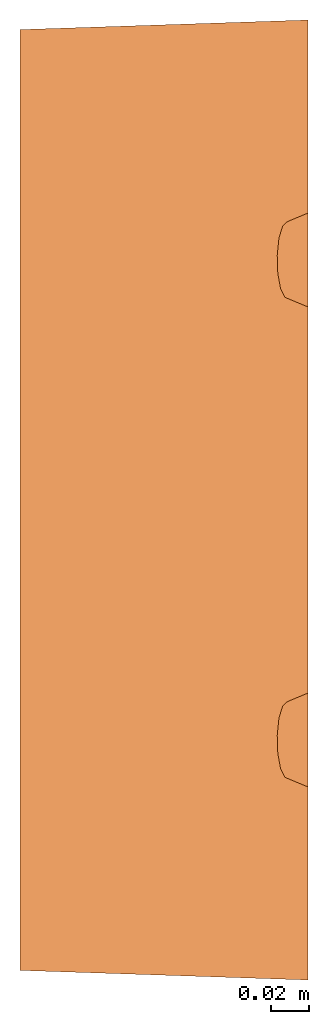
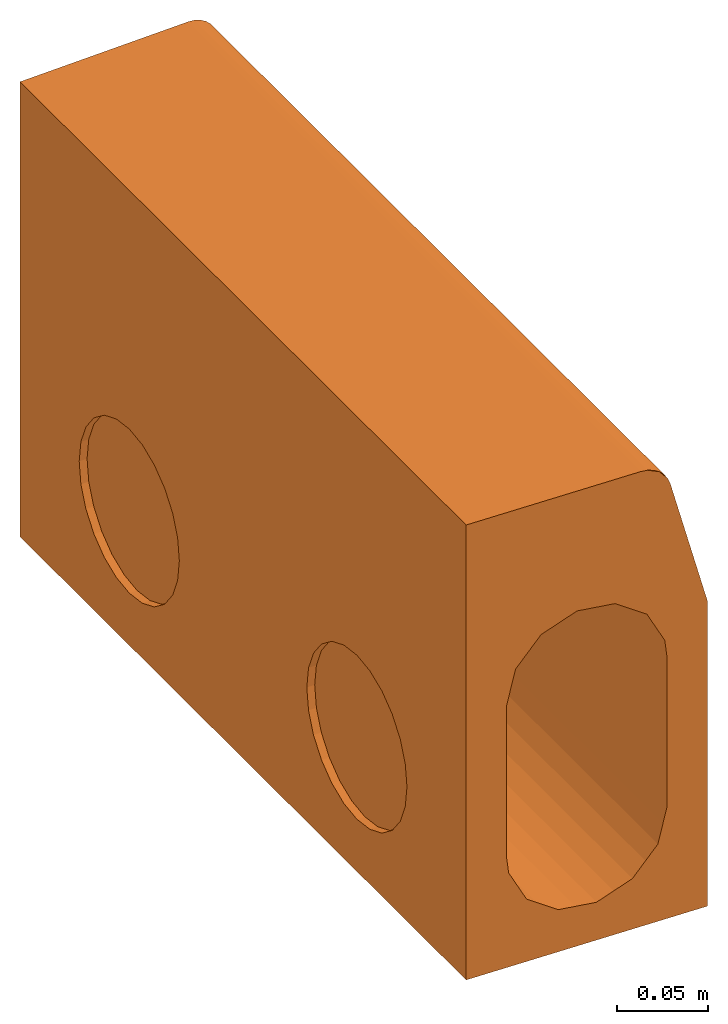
# One storey: 1 proxy.
"""IFC2X3 building model written with IfcOpenShell, lengths in millimetres."""

from ifc_helpers import new_model, entity, si_unit, converted_unit, direction, frame, origin, place, context, subcontext, project, spatial, face_set, surface_model, source, transform, mapped, material, element, save


model = new_model("IFC2X3")

# Units and contexts
model_context = context("Model", 3, precision=1e-06, world=origin(), true_north=direction((2.0, 6.12303176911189e-17, 1.0)))
context_of_model = context(None, 3, precision=1e-06, world=origin(), true_north=direction((2.0, 6.12303176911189e-17, 1.0)))
body_context = subcontext(model_context, "Body", "Model", "MODEL_VIEW")
ifc_project = project(units=[si_unit("LENGTHUNIT", "METRE", prefix="MILLI"), si_unit("AREAUNIT", "SQUARE_METRE", prefix="MILLI"), si_unit("VOLUMEUNIT", "CUBIC_METRE", prefix="MILLI"), converted_unit("PLANEANGLEUNIT", "DEGREE", entity("IfcRatioMeasure", 0.0174532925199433), si_unit("PLANEANGLEUNIT", "RADIAN"), dimensions=[0, 0, 0, 0, 0, 0, 0]), si_unit("TIMEUNIT", "SECOND")], contexts=[model_context, context_of_model])

# Site, building, storey
site_placement = place(None, origin())
site = spatial("IfcSite", under=ifc_project, at=site_placement, Name="Default", CompositionType="ELEMENT")
building_placement = place(site_placement, origin())
building = spatial("IfcBuilding", under=site, at=building_placement, CompositionType="ELEMENT")
storey_placement = place(building_placement, frame((0.0, 0.0, -300.0)))
storey = spatial("IfcBuildingStorey", under=building, at=storey_placement, Name="T.O. Fnd. Wall", CompositionType="ELEMENT", Elevation=-300.0)

# Proxy
ifc_material = material(Name="ACO Polymer Concrete.")
shared_shape = source(origin(), body_context, "Body", "SurfaceModel", [
    surface_model("IfcFaceBasedSurfaceModel", [(-75.0, 5.0, 125.0), (-75.0, 495.0, 125.0), (-75.0, 495.0, -180.0), (-75.0, 5.0, -180.0), (-75.0, 375.0, -35.0), (-75.0, 389.235047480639, -36.8740795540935), (-75.0, 402.5, -42.3686027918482), (-75.0, 413.89087296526, -51.1091270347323), (-75.0, 422.631397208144, -62.4999999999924), (-75.0, 428.125920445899, -75.7649525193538), (-75.0, 430.0, -90.0), (-75.0, 428.125920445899, -104.235047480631), (-75.0, 422.631397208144, -117.499999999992), (-75.0, 413.89087296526, -128.890872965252), (-75.0, 402.5, -137.631397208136), (-75.0, 389.235047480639, -143.125920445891), (-75.0, 375.0, -145.0), (-75.0, 360.764952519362, -143.125920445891), (-75.0, 347.5, -137.631397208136), (-75.0, 336.10912703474, -128.890872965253), (-75.0, 327.368602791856, -117.499999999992), (-75.0, 321.874079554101, -104.235047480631), (-75.0, 320.0, -90.0), (-75.0, 321.874079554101, -75.7649525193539), (-75.0, 327.368602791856, -62.4999999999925), (-75.0, 336.10912703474, -51.1091270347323), (-75.0, 347.5, -42.3686027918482), (-75.0, 360.764952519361, -36.8740795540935), (-75.0, 125.0, -35.0), (-75.0, 139.235047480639, -36.8740795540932), (-75.0, 152.5, -42.3686027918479), (-75.0, 163.890872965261, -51.1091270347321), (-75.0, 172.631397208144, -62.4999999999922), (-75.0, 178.125920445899, -75.7649525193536), (-75.0, 180.0, -90.0), (-75.0, 178.125920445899, -104.235047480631), (-75.0, 172.631397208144, -117.499999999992), (-75.0, 163.89087296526, -128.890872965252), (-75.0, 152.5, -137.631397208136), (-75.0, 139.235047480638, -143.125920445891), (-75.0, 125.0, -145.0), (-75.0, 110.764952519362, -143.125920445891), (-75.0, 97.5000000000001, -137.631397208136), (-75.0, 86.10912703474, -128.890872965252), (-75.0, 77.3686027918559, -117.499999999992), (-75.0, 71.8740795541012, -104.235047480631), (-75.0, 70.0, -90.0), (-75.0, 71.8740795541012, -75.7649525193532), (-75.0, 77.3686027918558, -62.4999999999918), (-75.0, 86.1091270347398, -51.1091270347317), (-75.0, 97.5, -42.3686027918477), (-75.0, 110.764952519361, -36.874079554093), (75.0, 500.0, -180.0), (75.0, 0.0, -180.0), (75.0, 500.0, 25.0), (75.0, 399.444444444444, 25.0), (75.0, 400.0, 20.0), (75.0, 399.148145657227, 13.5295238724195), (75.0, 396.650635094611, 7.49999999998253), (75.0, 392.677669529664, 2.32233047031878), (75.0, 387.5, -1.65063509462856), (75.0, 381.470476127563, -4.14814565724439), (75.0, 375.0, -5.0), (75.0, 368.529523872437, -4.14814565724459), (75.0, 362.5, -1.65063509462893), (75.0, 357.322330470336, 2.32233047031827), (75.0, 353.349364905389, 7.49999999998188), (75.0, 350.851854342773, 13.5295238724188), (75.0, 350.0, 20.0), (75.0, 350.555555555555, 25.0), (75.0, 149.444444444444, 25.0), (75.0, 150.0, 20.0), (75.0, 149.148145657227, 13.5295238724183), (75.0, 146.650635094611, 7.49999999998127), (75.0, 142.677669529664, 2.32233047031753), (75.0, 137.5, -1.65063509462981), (75.0, 131.470476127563, -4.14814565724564), (75.0, 125.0, -5.0), (75.0, 118.529523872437, -4.14814565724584), (75.0, 112.5, -1.65063509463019), (75.0, 107.322330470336, 2.32233047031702), (75.0, 103.349364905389, 7.49999999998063), (75.0, 100.851854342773, 13.5295238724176), (75.0, 100.0, 20.0), (75.0, 100.555555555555, 25.0), (75.0, 0.0, 25.0), (33.6258679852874, 1.3791377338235, 125.0), (33.6258679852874, 498.620862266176, 125.0), (-50.0, 4.16666666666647, -105.0), (-50.0, 4.16666666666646, -5.0), (-50.0, 495.833333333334, -5.0), (-50.0, 495.833333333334, -105.0), (-28.4032376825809, 496.553230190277, 36.1491924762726), (-37.425538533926, 496.252485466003, 28.1561324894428), (-37.425538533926, 3.74751778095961, 28.1561324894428), (-28.4032376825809, 3.44677447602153, 36.1491924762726), (37.425538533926, 1.25248205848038, 28.1561324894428), (40.2292577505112, 100.469803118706, 24.2282654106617), (37.1572409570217, 100.93961455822, 28.4565297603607), (-6.02683393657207, 497.299114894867, 44.6354431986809), (-17.7302438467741, 496.908986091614, 41.7508127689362), (-17.7302438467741, 3.09100807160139, 41.7508127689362), (-6.02683393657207, 2.70089459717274, 44.6354431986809), (20.3368332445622, 102.297471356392, 40.6772727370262), (17.7302438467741, 1.90899190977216, 41.7508127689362), (23.0667401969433, 1.73110870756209, 38.9500026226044), (49.0129648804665, 105.086145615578, 4.8858164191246), (49.2735458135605, 0.857548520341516, 0.982891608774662), (49.6677032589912, 109.042944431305, 0.75494049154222), (-48.5470912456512, 495.881759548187, 6.96578348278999), (-48.5470912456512, 4.11823631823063, 6.96578348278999), (6.02683393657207, 2.29910552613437, 44.6354431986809), (10.3955841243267, 102.656379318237, 43.9073808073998), (7.34384395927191, 102.692014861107, 44.2281324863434), (-44.2728018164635, 496.024229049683, 18.2361586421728), (-44.2728018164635, 3.97576000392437, 18.2361586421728), (0.0, 102.777774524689, 45.0000012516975), (0.0, 147.222218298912, 45.0000012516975), (2.14605175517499, 102.752712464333, 44.7744427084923), (0.0, 2.50000013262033, 44.6354431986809), (15.3662086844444, 102.476920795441, 42.292326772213), (4.29210351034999, 102.727650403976, 44.5488796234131), (11.8785388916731, 2.10404864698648, 43.1931257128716), (15.3662086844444, 397.523083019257, 42.292326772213), (11.8785388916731, 497.895953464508, 43.1931257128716), (10.3955841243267, 397.34362449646, 43.9073808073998), (32.9143881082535, 1.40285371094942, 32.1526636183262), (33.2732529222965, 101.328190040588, 31.9536909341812), (29.3892626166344, 101.716765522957, 35.4508498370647), (24.8630467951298, 102.007118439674, 38.064062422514), (28.4032376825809, 1.55322536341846, 36.1491924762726), (43.3012722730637, 400.000003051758, 20.0000010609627), (44.2728018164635, 498.97575674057, 18.2361586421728), (40.8491690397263, 498.86162853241, 23.1961449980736), (15.3662086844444, 352.476922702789, 42.292326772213), (10.3955841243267, 352.656381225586, 43.9073808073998), (10.3955841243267, 147.343622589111, 43.9073808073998), (15.3662086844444, 147.52307202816, 42.292326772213), (2.59889603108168, 147.252576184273, 44.7268438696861), (0.0, 352.777776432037, 45.0000012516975), (49.9955993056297, 380.720438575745, -4.33673224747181), (50.0000003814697, 375.000002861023, -5.00000026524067), (50.0000003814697, 436.725195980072, -5.00000026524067), (24.8630467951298, 352.007111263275, 38.064062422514), (20.3368332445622, 352.297464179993, 40.6772727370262), (20.3368332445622, 147.702521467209, 40.6772727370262), (24.8630467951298, 147.992883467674, 38.064062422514), (0.0, 397.222229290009, 45.0000012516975), (45.8762740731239, 100.52910182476, 14.883846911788), (44.2728018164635, 1.02423997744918, 18.2361586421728), (46.4099442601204, 0.953001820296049, 12.6009704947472), (0.0, 497.500011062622, 44.6354431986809), (49.9314453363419, 113.863562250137, -2.38257565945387), (50.0000003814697, 63.2748032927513, -5.00000026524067), (49.9955993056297, 119.279556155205, -4.33673224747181), (5.19779206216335, 397.282908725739, 44.4536910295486), (37.1572409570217, 350.939625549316, 28.4565297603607), (33.2732529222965, 351.328191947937, 31.9536909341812), (33.2732529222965, 148.67181186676, 31.9536909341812), (37.1572409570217, 149.060387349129, 28.4565297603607), (29.3892626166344, 351.716758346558, 35.4508498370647), (29.3892626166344, 148.283236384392, 35.4508498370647), (40.2292577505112, 350.469814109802, 24.2282654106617), (40.2292577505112, 149.530189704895, 24.2282654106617), (7.79668866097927, 147.313273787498, 44.1805336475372), (5.19779206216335, 352.717060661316, 44.4536910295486), (5.19779206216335, 147.282924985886, 44.4536910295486), (6.02683393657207, 497.700907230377, 44.6354431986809), (28.4032376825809, 498.446791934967, 36.1491924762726), (23.0667401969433, 498.268895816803, 38.9500026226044), (24.8630467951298, 397.992894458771, 38.064062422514), (32.9143881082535, 498.597146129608, 32.1526636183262), (29.3892626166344, 398.283247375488, 35.4508498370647), (20.3368332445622, 397.702541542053, 40.6772727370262), (17.7302438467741, 498.090999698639, 41.7508127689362), (47.7841336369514, 397.78861913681, 9.71994177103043), (46.4099442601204, 499.047009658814, 12.6009704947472), (45.8762740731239, 399.470892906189, 14.883846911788), (43.3012722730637, 100.000000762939, 20.0000010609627), (40.8491690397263, 1.13836101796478, 23.1961449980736), (48.5470912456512, 0.88176366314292, 6.96578348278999), (47.7841336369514, 102.211393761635, 9.71994177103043), (47.7841336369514, 352.211386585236, 9.71994177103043), (45.8762740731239, 350.529112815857, 14.883846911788), (45.8762740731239, 149.470900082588, 14.883846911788), (47.7841336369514, 147.788599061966, 9.71994177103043), (43.3012722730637, 350.000002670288, 20.0000010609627), (43.3012722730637, 150.000001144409, 20.0000010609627), (50.0000003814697, 0.833333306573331, -5.00000026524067), (50.0000003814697, 125.000000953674, -5.00000026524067), (49.6677032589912, 359.042946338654, 0.75494049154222), (49.0129648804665, 355.086138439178, 4.8858164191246), (49.0129648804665, 144.913847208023, 4.8858164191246), (49.6677032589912, 140.957057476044, 0.75494049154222), (50.0000003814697, 251.549598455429, -5.00000026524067), (49.9314453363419, 136.136439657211, -2.38257565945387), (50.0000003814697, 186.725194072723, -5.00000026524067), (49.9955993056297, 130.720445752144, -4.33673224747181), (49.9314453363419, 386.136423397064, -2.38257565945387), (49.2735458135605, 499.142461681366, 0.982891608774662), (49.6677032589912, 390.957059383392, 0.75494049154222), (49.9314453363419, 363.86354598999, -2.38257565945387), (50.0000003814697, 313.274809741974, -5.00000026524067), (49.9955993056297, 369.279567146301, -4.33673224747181), (48.5470912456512, 499.118226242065, 6.96578348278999), (49.0129648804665, 394.913867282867, 4.8858164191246), (40.2292577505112, 399.530191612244, 24.2282654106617), (37.425538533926, 498.747500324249, 28.1561324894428), (37.1572409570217, 399.060380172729, 28.4565297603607), (50.0000003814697, 499.166660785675, -5.00000026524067), (33.2732529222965, 398.671813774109, 31.9536909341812), (50.0, 0.833333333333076, -105.0), (50.0, 499.166666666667, -105.0), (48.5470912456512, 499.118226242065, -116.965780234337), (48.5470912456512, 0.88176366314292, -116.965780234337), (44.2728018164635, 498.97575674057, -128.236158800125), (44.2728018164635, 1.02423997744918, -128.236158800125), (28.4032376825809, 498.446791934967, -146.149191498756), (37.425538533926, 498.747500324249, -138.15612924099), (37.425538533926, 1.25248205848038, -138.15612924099), (28.4032376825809, 1.55322536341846, -146.149191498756), (17.7302438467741, 498.090999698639, -151.75081179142), (17.7302438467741, 1.90899190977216, -151.75081179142), (6.02683393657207, 497.700907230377, -154.635437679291), (6.02683393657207, 2.29910552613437, -154.635437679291), (-6.02683393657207, 497.299114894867, -154.635437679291), (-6.02683393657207, 2.70089459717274, -154.635437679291), (-28.4032376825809, 496.553230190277, -146.149191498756), (-17.7302438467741, 496.908986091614, -151.75081179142), (-17.7302438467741, 3.09100807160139, -151.75081179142), (-28.4032376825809, 3.44677447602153, -146.149191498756), (-44.2728018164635, 496.024229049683, -128.236158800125), (-37.425538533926, 496.252485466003, -138.15612924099), (-37.425538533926, 3.74751778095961, -138.15612924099), (-44.2728018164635, 3.97576000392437, -128.236158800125), (-48.5470912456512, 495.881759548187, -116.965780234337), (-48.5470912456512, 4.11823631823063, -116.965780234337), (64.2820323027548, 105.0, 65.0), (62.9995435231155, 105.581163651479, 69.7863132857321), (60.7283686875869, 110.029785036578, 78.2624531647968), (59.2712953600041, 117.907902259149, 83.7003248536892), (58.9621214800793, 127.410733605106, 84.854177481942), (59.8716750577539, 136.361294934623, 81.4596773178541), (61.7915883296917, 142.709120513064, 74.2944634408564), (64.2820323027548, 145.0, 65.0), (64.2820323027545, 355.0, 65.0), (62.9995435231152, 355.581163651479, 69.7863132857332), (60.7283686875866, 360.029785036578, 78.262453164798), (59.2712953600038, 367.907902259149, 83.7003248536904), (58.9621214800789, 377.410733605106, 84.8541774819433), (59.8716750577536, 386.361294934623, 81.4596773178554), (61.7915883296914, 392.709120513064, 74.2944634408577), (64.2820323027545, 395.0, 65.0), (51.9784586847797, 499.232615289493, 110.917561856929), (51.9784586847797, 0.767384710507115, 110.917561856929), (50.479072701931, 499.182648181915, 114.773226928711), (50.479072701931, 0.817364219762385, 114.773226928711), (48.1807119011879, 499.106017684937, 118.212960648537), (48.1807119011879, 0.893976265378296, 118.212960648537), (45.1923359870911, 499.006423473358, 121.073714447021), (45.1923359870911, 0.993588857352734, 121.073714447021), (41.6556150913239, 1.11147951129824, 123.219849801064), (41.6556150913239, 498.888516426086, 123.219849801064), (37.7382215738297, 498.757928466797, 124.549619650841), (37.7382215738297, 1.24205930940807, 124.549619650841), (0.0, 145.0, 65.0), (0.0, 144.318516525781, 70.1763809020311), (0.0, 142.320508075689, 75.0), (0.0, 139.142135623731, 79.1421356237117), (0.0, 135.0, 82.3205080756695), (0.0, 130.17638090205, 84.318516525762), (0.0, 125.0, 85.0), (0.0, 119.823619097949, 84.318516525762), (0.0, 115.0, 82.3205080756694), (0.0, 110.857864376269, 79.1421356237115), (0.0, 107.679491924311, 75.0), (0.0, 105.681483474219, 70.176380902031), (0.0, 105.0, 65.0), (61.7915862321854, 107.290880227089, 74.2944613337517), (59.8716770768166, 113.638703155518, 81.4596807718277), (58.9621214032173, 122.589265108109, 84.8541774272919), (59.2712958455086, 132.092100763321, 83.7003234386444), (62.9995430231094, 144.418837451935, 69.7863153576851), (60.7283698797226, 139.97021727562, 78.262455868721), (0.0, 395.0, 65.0), (0.0, 394.318516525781, 70.1763809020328), (0.0, 392.320508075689, 75.0), (0.0, 389.142135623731, 79.1421356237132), (0.0, 385.0, 82.3205080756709), (0.0, 380.17638090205, 84.3185165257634), (0.0, 375.0, 85.0), (0.0, 369.823619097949, 84.3185165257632), (0.0, 365.0, 82.3205080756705), (0.0, 360.857864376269, 79.1421356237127), (0.0, 357.679491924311, 75.0), (0.0, 355.681483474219, 70.1763809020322), (0.0, 355.0, 65.0), (61.7915862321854, 357.29087305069, 74.2944613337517), (59.8716770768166, 363.638705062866, 81.4596807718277), (58.9621214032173, 372.589248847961, 84.8541774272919), (59.2712958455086, 382.092084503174, 83.7003234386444), (62.9995430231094, 394.418839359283, 69.7863153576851), (60.7283698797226, 389.970201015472, 78.262455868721), (-70.0, 375.0, -35.0), (-70.0, 389.235047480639, -36.8740795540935), (-70.0, 402.5, -42.3686027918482), (-70.0, 413.89087296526, -51.1091270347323), (-70.0, 422.631397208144, -62.4999999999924), (-70.0, 428.125920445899, -75.7649525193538), (-70.0, 430.0, -90.0), (-70.0, 428.125920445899, -104.235047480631), (-70.0, 422.631397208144, -117.499999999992), (-70.0, 413.89087296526, -128.890872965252), (-70.0, 402.5, -137.631397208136), (-70.0, 389.235047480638, -143.125920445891), (-70.0, 375.0, -145.0), (-70.0, 360.764952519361, -143.125920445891), (-70.0, 347.5, -137.631397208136), (-70.0, 336.10912703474, -128.890872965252), (-70.0, 327.368602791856, -117.499999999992), (-70.0, 321.874079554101, -104.235047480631), (-70.0, 320.0, -90.0), (-70.0, 321.874079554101, -75.7649525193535), (-70.0, 327.368602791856, -62.4999999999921), (-70.0, 336.10912703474, -51.109127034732), (-70.0, 347.5, -42.368602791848), (-70.0, 360.764952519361, -36.8740795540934), (-70.0000014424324, 125.000000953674, -144.999997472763), (-70.0000014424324, 139.235051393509, -143.125920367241), (-70.0000014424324, 152.499993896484, -137.631397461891), (-70.0000014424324, 172.63139591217, -117.500004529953), (-70.0000014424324, 163.890868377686, -128.890869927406), (-70.0000014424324, 178.12591881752, -104.235043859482), (-70.0000014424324, 180.00000500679, -90.0000025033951), (-70.0000014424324, 178.12591881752, -75.7649520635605), (-70.0000014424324, 172.63139591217, -62.5000004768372), (-70.0000014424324, 152.499993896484, -42.3686030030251), (-70.0000014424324, 163.890868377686, -51.109125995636), (-70.0000014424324, 139.235051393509, -36.8740800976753), (-70.0000014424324, 125.000000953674, -35.0000007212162), (-70.0000014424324, 110.76495051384, -36.8740800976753), (-70.0000014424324, 97.4999989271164, -42.3686030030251), (-70.0000014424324, 86.1091244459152, -51.109125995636), (-70.0000014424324, 77.3686059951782, -62.5000004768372), (-70.0000014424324, 71.8740785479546, -75.7649520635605), (-70.0000014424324, 70.0000014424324, -90.0000025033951), (-70.0000014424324, 71.8740785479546, -104.235043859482), (-70.0000014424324, 77.3686059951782, -117.500004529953), (-70.0000014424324, 86.1091244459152, -128.890869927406), (-70.0000014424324, 97.4999989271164, -137.631397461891), (-70.0000014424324, 110.76495051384, -143.125920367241)], [face_set([[[0, 1, 2, 3], [4, 5, 6, 7, 8, 9, 10, 11, 12, 13, 14, 15, 16, 17, 18, 19, 20, 21, 22, 23, 24, 25, 26, 27], [28, 29, 30, 31, 32, 33, 34, 35, 36, 37, 38, 39, 40, 41, 42, 43, 44, 45, 46, 47, 48, 49, 50, 51]], [[52, 53, 3, 2]], [[53, 52, 54, 55, 56, 57, 58, 59, 60, 61, 62, 63, 64, 65, 66, 67, 68, 69, 70, 71, 72, 73, 74, 75, 76, 77, 78, 79, 80, 81, 82, 83, 84, 85]], [[1, 0, 86, 87]], [[88, 89, 90, 91]], [[92, 93, 94, 95]], [[96, 97, 98]], [[99, 100, 101, 102]], [[103, 104, 105]], [[106, 107, 108]], [[100, 92, 95, 101]], [[109, 90, 89, 110]], [[111, 112, 113]], [[93, 114, 115, 94]], [[99, 102, 116, 117]], [[118, 119, 111]], [[114, 109, 110, 115]], [[104, 103, 120]], [[121, 118, 111]], [[116, 102, 119]], [[122, 104, 120]], [[123, 124, 125]], [[126, 127, 128]], [[98, 126, 96]], [[128, 129, 130]], [[131, 132, 133]], [[103, 105, 129]], [[112, 122, 120]], [[134, 135, 136, 137]], [[138, 139, 117]], [[140, 141, 142]], [[143, 144, 145, 146]], [[117, 139, 147, 99]], [[148, 149, 150]], [[112, 111, 122]], [[151, 99, 147]], [[128, 130, 126]], [[152, 153, 154]], [[155, 151, 147]], [[144, 134, 137, 145]], [[156, 157, 158, 159]], [[160, 143, 146, 161]], [[162, 156, 159, 163]], [[164, 165, 166]], [[125, 124, 167]], [[168, 169, 170]], [[171, 168, 172]], [[173, 169, 174]], [[174, 123, 173]], [[168, 170, 172]], [[167, 155, 125]], [[157, 160, 161, 158]], [[175, 176, 177]], [[178, 179, 149]], [[178, 149, 148]], [[164, 135, 165]], [[150, 180, 181]], [[182, 183, 184, 185]], [[150, 181, 148]], [[183, 186, 187, 184]], [[181, 180, 106]], [[186, 162, 163, 187]], [[180, 107, 106]], [[188, 153, 152]], [[152, 108, 107]], [[154, 153, 189]], [[188, 152, 107]], [[190, 191, 192, 193]], [[194, 195, 196]], [[196, 195, 197]], [[195, 194, 193]], [[198, 199, 200]], [[201, 202, 203]], [[191, 182, 185, 192]], [[204, 175, 205]], [[206, 207, 208]], [[133, 206, 131]], [[132, 177, 176]], [[177, 132, 131]], [[176, 175, 204]], [[151, 155, 167]], [[207, 171, 208]], [[194, 201, 190]], [[141, 203, 202]], [[194, 190, 193]], [[199, 204, 205]], [[140, 142, 198]], [[198, 142, 209]], [[209, 199, 198]], [[199, 205, 200]], [[208, 171, 210]], [[202, 201, 194]], [[197, 189, 196]], [[179, 97, 96]], [[124, 123, 174]], [[138, 165, 139]], [[169, 173, 170]], [[171, 172, 210]], [[207, 206, 133]], [[126, 98, 127]], [[130, 129, 105]], [[179, 178, 97]], [[165, 138, 166]], [[116, 119, 118]], [[121, 111, 113]], [[135, 164, 136]], [[189, 188, 211, 212, 209, 141]], [[213, 212, 211, 214]], [[215, 213, 214, 216]], [[217, 218, 219, 220]], [[221, 217, 220, 222]], [[218, 215, 216, 219]], [[223, 221, 222, 224]], [[225, 223, 224, 226]], [[227, 228, 229, 230]], [[228, 225, 226, 229]], [[231, 232, 233, 234]], [[91, 235, 236, 88]], [[235, 231, 234, 236]], [[232, 227, 230, 233]], [[85, 84, 237, 238, 239, 240, 241, 242, 243, 244, 70, 69, 245, 246, 247, 248, 249, 250, 251, 252, 55, 54, 253, 254]], [[254, 253, 255, 256]], [[256, 255, 257, 258]], [[259, 260, 258, 257]], [[261, 262, 263, 264]], [[264, 263, 87, 86]], [[262, 261, 260, 259]], [[265, 266, 267, 268, 269, 270, 271, 272, 273, 274, 275, 276, 277, 116, 117]], [[238, 278, 276]], [[237, 238, 277]], [[279, 240, 273]], [[239, 279, 274]], [[278, 239, 275]], [[278, 275, 276]], [[276, 277, 238]], [[279, 273, 274]], [[274, 275, 239]], [[273, 240, 272]], [[280, 271, 272]], [[280, 272, 240]], [[281, 242, 269]], [[241, 281, 270]], [[265, 244, 282]], [[267, 243, 283]], [[243, 266, 282]], [[242, 283, 268]], [[241, 270, 271]], [[281, 269, 270]], [[242, 268, 269]], [[268, 267, 283]], [[243, 267, 266]], [[266, 265, 282]], [[241, 271, 280]], [[265, 244, 70, 71, 187, 159, 145, 117]], [[71, 184, 72]], [[72, 185, 73]], [[75, 74, 193]], [[197, 77, 76]], [[192, 74, 73]], [[76, 75, 195]], [[71, 187, 184]], [[72, 184, 185]], [[76, 195, 197]], [[74, 192, 193]], [[75, 193, 195]], [[192, 73, 185]], [[197, 189, 77]], [[154, 77, 189]], [[78, 77, 154]], [[79, 152, 78]], [[81, 82, 181]], [[106, 80, 81]], [[108, 79, 80]], [[148, 82, 83]], [[152, 154, 78]], [[108, 152, 79]], [[181, 106, 81]], [[178, 148, 83]], [[181, 82, 148]], [[108, 80, 106]], [[116, 277, 237, 84, 83, 178, 128, 112]], [[284, 285, 286, 287, 288, 289, 290, 291, 292, 293, 294, 295, 296, 139, 147]], [[295, 297, 246]], [[296, 246, 245]], [[298, 248, 292]], [[247, 298, 293]], [[294, 247, 297]], [[295, 294, 297]], [[246, 296, 295]], [[298, 292, 293]], [[247, 294, 293]], [[292, 248, 291]], [[299, 290, 291]], [[299, 291, 248]], [[300, 250, 288]], [[249, 300, 289]], [[301, 252, 284]], [[302, 251, 286]], [[301, 285, 251]], [[250, 302, 287]], [[249, 289, 290]], [[300, 288, 289]], [[250, 287, 288]], [[302, 286, 287]], [[285, 286, 251]], [[301, 284, 285]], [[249, 290, 299]], [[284, 252, 55, 56, 131, 208, 173, 147]], [[57, 177, 56]], [[58, 175, 57]], [[200, 59, 60]], [[140, 62, 61]], [[58, 59, 205]], [[198, 60, 61]], [[177, 131, 56]], [[175, 177, 57]], [[140, 198, 61]], [[200, 205, 59]], [[198, 200, 60]], [[175, 58, 205]], [[140, 141, 62]], [[203, 62, 141]], [[63, 62, 203]], [[63, 201, 64]], [[182, 67, 66]], [[66, 65, 191]], [[65, 64, 190]], [[68, 67, 183]], [[63, 203, 201]], [[64, 201, 190]], [[66, 191, 182]], [[68, 183, 186]], [[183, 67, 182]], [[191, 65, 190]], [[139, 296, 245, 69, 68, 186, 160, 135]], [[303, 304, 305, 306, 307, 308, 309, 310, 311, 312, 313, 314, 315, 316, 317, 318, 319, 320, 321, 322, 323, 324, 325, 326]], [[315, 16, 15, 314]], [[314, 15, 14, 313]], [[312, 13, 12, 311]], [[313, 14, 13, 312]], [[311, 12, 11, 310]], [[10, 309, 310, 11]], [[309, 10, 9, 308]], [[308, 9, 8, 307]], [[306, 7, 6, 305]], [[307, 8, 7, 306]], [[305, 6, 5, 304]], [[4, 303, 304, 5]], [[326, 27, 4, 303]], [[325, 26, 27, 326]], [[323, 24, 25, 324]], [[324, 25, 26, 325]], [[322, 23, 24, 323]], [[23, 322, 321, 22]], [[320, 21, 22, 321]], [[319, 20, 21, 320]], [[318, 19, 18, 317]], [[318, 19, 20, 319]], [[317, 18, 17, 316]], [[16, 315, 316, 17]], [[327, 40, 39, 328]], [[328, 39, 38, 329]], [[330, 36, 37, 331]], [[329, 38, 37, 331]], [[332, 35, 36, 330]], [[35, 332, 333, 34]], [[334, 33, 34, 333]], [[335, 32, 33, 334]], [[336, 30, 31, 337]], [[337, 31, 32, 335]], [[338, 29, 30, 336]], [[29, 338, 339, 28]], [[339, 28, 51, 340]], [[340, 51, 50, 341]], [[342, 49, 48, 343]], [[341, 50, 49, 342]], [[343, 48, 47, 344]], [[46, 345, 344, 47]], [[345, 46, 45, 346]], [[346, 45, 44, 347]], [[348, 43, 42, 349]], [[347, 44, 43, 348]], [[349, 42, 41, 350]], [[40, 327, 350, 41]], [[0, 86, 264, 260, 256, 254, 85, 53, 3], [88, 236, 233, 229, 224, 220, 216, 211, 188, 180, 96, 104, 102, 95, 115, 89]], [[2, 1, 87, 263, 259, 255, 253, 54, 52], [90, 91, 231, 227, 225, 221, 218, 213, 212, 209, 132, 168, 167, 100, 93, 109]], [[339, 338, 336, 337, 335, 334, 333, 332, 330, 331, 329, 328, 327, 350, 349, 348, 347, 346, 345, 344, 343, 342, 341, 340]]])]),
])
proxy_placement = place(storey_placement, frame((-4010.98705540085, -6177.33245691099, 300.0)))
element("IfcBuildingElementProxy", 1, at=proxy_placement, inside=storey, material=ifc_material, Name="Civil-Drainage-Channel-ACO-KerbDrain-HB305 Part 2:7969 - 10-8m external mitre:7969 - 10-8m external mitre", ObjectType="7969 - 10-8m external mitre", CompositionType="ELEMENT", context=body_context, shape_type="MappedRepresentation", body=[
    mapped(shared_shape, transform((0.0, 0.0, 0.0), scale=1.0)),
])

save(model, "model.ifc")
